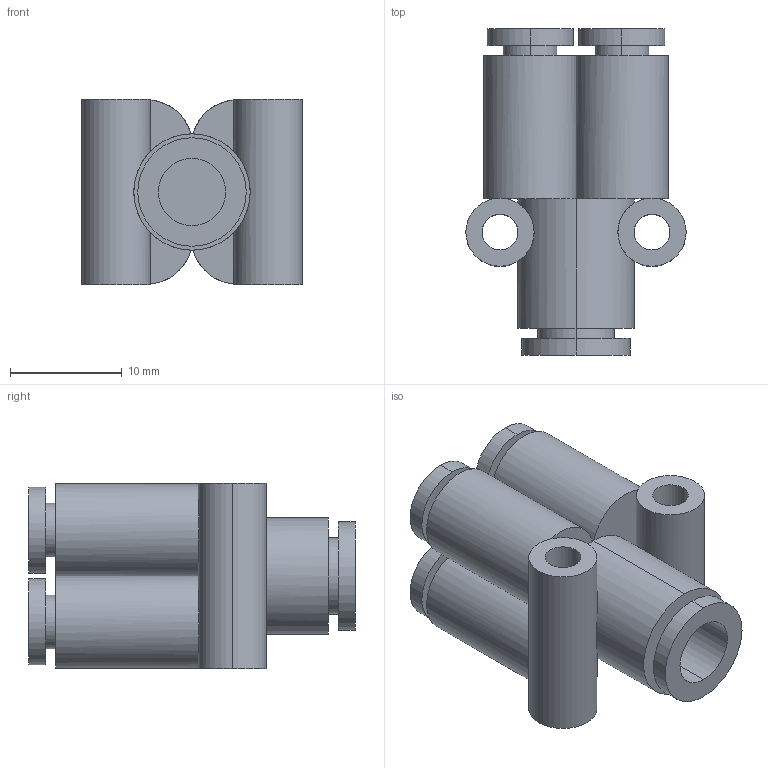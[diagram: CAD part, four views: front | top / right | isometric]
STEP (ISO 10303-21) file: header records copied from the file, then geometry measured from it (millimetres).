
FILE_DESCRIPTION (( 'STEP AP203' ), '1' );
FILE_NAME ('FUD04-06.STEP', '2020-05-12T15:19:06', ( '' ), ( '' ), 'SwSTEP 2.0', 'SolidWorks 2019', '' );
FILE_SCHEMA (( 'CONFIG_CONTROL_DESIGN' ));
Length unit declared in the file: millimetre
Products named in the file (1): FUD04-06
Bounding box: 19.7 x 29.2 x 16.6 mm (x, y, z)
Volume: 3849.5 mm3; surface area: 4388.9 mm2
Topology: 1 solids, 1 shells, 84 faces, 196 edges, 128 vertices
Faces by surface type: cylinder 50, plane 34
Entity records: 2864 total; most frequent: CARTESIAN_POINT 736, DIRECTION 478, ORIENTED_EDGE 392, AXIS2_PLACEMENT_3D 209, EDGE_CURVE 196, VERTEX_POINT 128, CIRCLE 124, EDGE_LOOP 110
